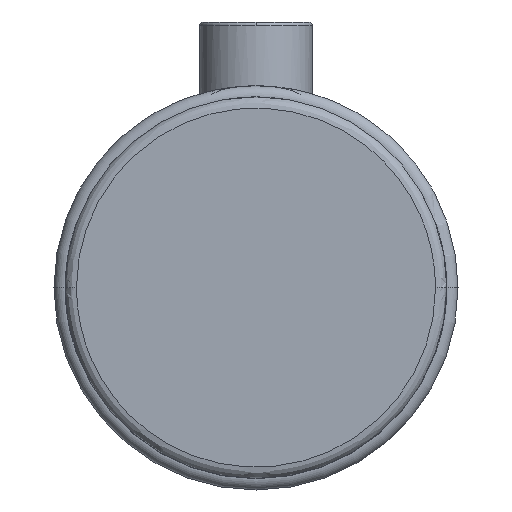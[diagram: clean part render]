
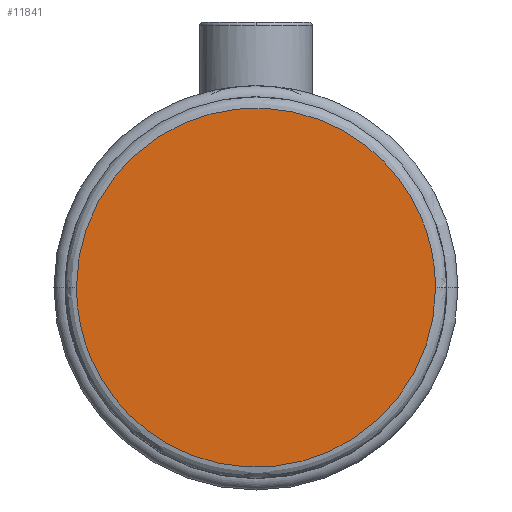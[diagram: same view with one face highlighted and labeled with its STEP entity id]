
A CAD part, top view. The second image highlights one B-rep face of the part: STEP entity #11841.
In plain terms, the highlighted planar face has unit normal (0, 0, 1).
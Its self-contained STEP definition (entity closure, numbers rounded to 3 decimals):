
#102 = CARTESIAN_POINT ( 'NONE',  ( 47.8, 95.6, 50. ) ) ;
#1523 = CARTESIAN_POINT ( 'NONE',  ( 47.8, 0., 50. ) ) ;
#1794 = EDGE_CURVE ( 'NONE', #3257, #4056, #11955, .T. ) ;
#1916 = CARTESIAN_POINT ( 'NONE',  ( 0., 25.4, 50. ) ) ;
#2123 = ORIENTED_EDGE ( 'NONE', *, *, #1794, .F. ) ;
#2834 = AXIS2_PLACEMENT_3D ( 'NONE', #1916, #5061, #12004 ) ;
#3257 = VERTEX_POINT ( 'NONE', #1523 ) ;
#3463 = EDGE_CURVE ( 'NONE', #4056, #3257, #11615, .T. ) ;
#3945 = ORIENTED_EDGE ( 'NONE', *, *, #3463, .F. ) ;
#4056 = VERTEX_POINT ( 'NONE', #11784 ) ;
#5061 = DIRECTION ( 'NONE',  ( 0., 0., 1. ) ) ;
#7292 = CARTESIAN_POINT ( 'NONE',  ( 47.8, 0., 50. ) ) ;
#7918 = FACE_OUTER_BOUND ( 'NONE', #11878, .T. ) ;
#11244 = CARTESIAN_POINT ( 'NONE',  ( -47.8, 95.6, 50. ) ) ;
#11476 = CARTESIAN_POINT ( 'NONE',  ( -47.8, 0., 50. ) ) ;
#11615 =( BOUNDED_CURVE ( )  B_SPLINE_CURVE ( 3, ( #12228, #11244, #102, #7292 ),
 .UNSPECIFIED., .F., .T. ) 
 B_SPLINE_CURVE_WITH_KNOTS ( ( 4, 4 ),
 ( 0.75, 1.25 ),
 .UNSPECIFIED. ) 
 CURVE ( )  GEOMETRIC_REPRESENTATION_ITEM ( )  RATIONAL_B_SPLINE_CURVE ( ( 1., 0.333, 0.333, 1. ) ) 
 REPRESENTATION_ITEM ( '' )  );
#11784 = CARTESIAN_POINT ( 'NONE',  ( -47.8, 0., 50. ) ) ;
#11841 = ADVANCED_FACE ( 'NONE', ( #7918 ), #12944, .T. ) ;
#11878 = EDGE_LOOP ( 'NONE', ( #2123, #3945 ) ) ;
#11955 =( BOUNDED_CURVE ( )  B_SPLINE_CURVE ( 3, ( #12681, #12730, #12548, #11476 ),
 .UNSPECIFIED., .F., .T. ) 
 B_SPLINE_CURVE_WITH_KNOTS ( ( 4, 4 ),
 ( 0.25, 0.75 ),
 .UNSPECIFIED. ) 
 CURVE ( )  GEOMETRIC_REPRESENTATION_ITEM ( )  RATIONAL_B_SPLINE_CURVE ( ( 1., 0.333, 0.333, 1. ) ) 
 REPRESENTATION_ITEM ( '' )  );
#12004 = DIRECTION ( 'NONE',  ( 0., -1., 0. ) ) ;
#12228 = CARTESIAN_POINT ( 'NONE',  ( -47.8, 0., 50. ) ) ;
#12548 = CARTESIAN_POINT ( 'NONE',  ( -47.8, -95.6, 50. ) ) ;
#12681 = CARTESIAN_POINT ( 'NONE',  ( 47.8, 0., 50. ) ) ;
#12730 = CARTESIAN_POINT ( 'NONE',  ( 47.8, -95.6, 50. ) ) ;
#12944 = PLANE ( 'NONE',  #2834 ) ;
